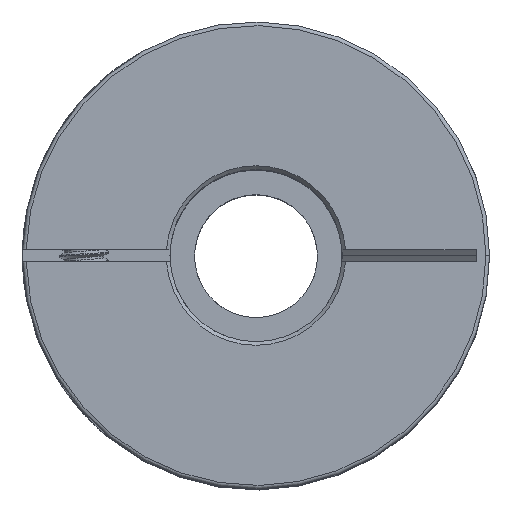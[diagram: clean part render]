
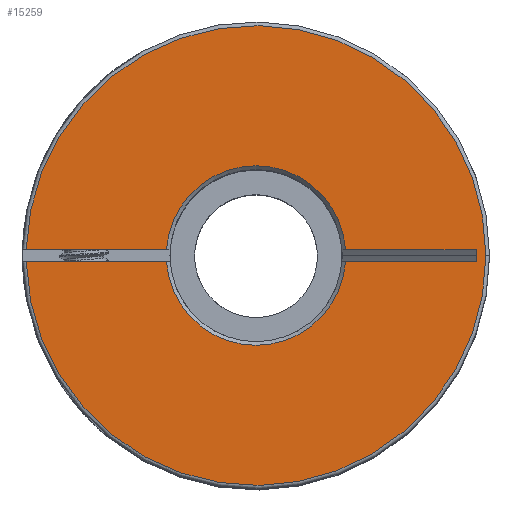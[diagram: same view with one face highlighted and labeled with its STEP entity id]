
A CAD part, top view. The second image highlights one B-rep face of the part: STEP entity #15259.
In plain terms, the highlighted planar face has unit normal (0, 0, 1).
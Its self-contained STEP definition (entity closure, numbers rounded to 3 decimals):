
#201 = EDGE_CURVE ( 'NONE', #16162, #5279, #2422, .T. ) ;
#934 = DIRECTION ( 'NONE',  ( -1., 0., 0. ) ) ;
#1072 = ORIENTED_EDGE ( 'NONE', *, *, #6749, .F. ) ;
#1318 = CIRCLE ( 'NONE', #6060, 18.7 ) ;
#1383 = DIRECTION ( 'NONE',  ( 0., 0., -1. ) ) ;
#1540 = DIRECTION ( 'NONE',  ( 1., 0., 0. ) ) ;
#1614 = EDGE_CURVE ( 'NONE', #9272, #11987, #1318, .T. ) ;
#1629 = ORIENTED_EDGE ( 'NONE', *, *, #5577, .T. ) ;
#1694 = CARTESIAN_POINT ( 'NONE',  ( 7.283, -0.491, 41. ) ) ;
#1795 = DIRECTION ( 'NONE',  ( 1., 0., 0. ) ) ;
#1889 = VERTEX_POINT ( 'NONE', #1694 ) ;
#2098 = EDGE_CURVE ( 'NONE', #10970, #11614, #16054, .T. ) ;
#2422 = LINE ( 'NONE', #14695, #7670 ) ;
#2487 = CARTESIAN_POINT ( 'NONE',  ( 0., 0., 41. ) ) ;
#2634 = AXIS2_PLACEMENT_3D ( 'NONE', #9787, #15946, #6984 ) ;
#2715 = DIRECTION ( 'NONE',  ( 1., 0., 0. ) ) ;
#2769 = AXIS2_PLACEMENT_3D ( 'NONE', #7825, #1383, #1540 ) ;
#2865 = AXIS2_PLACEMENT_3D ( 'NONE', #2487, #15086, #12616 ) ;
#4354 = CARTESIAN_POINT ( 'NONE',  ( 17.907, 0.491, 41. ) ) ;
#4431 = DIRECTION ( 'NONE',  ( 1., 0., 0. ) ) ;
#4529 = DIRECTION ( 'NONE',  ( 0., 0., -1. ) ) ;
#4536 = CARTESIAN_POINT ( 'NONE',  ( -18.694, -0.491, 41. ) ) ;
#4559 = CARTESIAN_POINT ( 'NONE',  ( 18.7, 0., 41. ) ) ;
#4755 = ORIENTED_EDGE ( 'NONE', *, *, #9440, .T. ) ;
#5251 = EDGE_CURVE ( 'NONE', #1889, #13524, #13847, .T. ) ;
#5273 = EDGE_CURVE ( 'NONE', #9272, #15874, #15239, .T. ) ;
#5279 = VERTEX_POINT ( 'NONE', #7918 ) ;
#5577 = EDGE_CURVE ( 'NONE', #11614, #13524, #8697, .T. ) ;
#5743 = FACE_OUTER_BOUND ( 'NONE', #7786, .T. ) ;
#5784 = AXIS2_PLACEMENT_3D ( 'NONE', #15813, #4529, #7243 ) ;
#6060 = AXIS2_PLACEMENT_3D ( 'NONE', #11277, #8887, #7564 ) ;
#6284 = AXIS2_PLACEMENT_3D ( 'NONE', #9142, #14410, #1795 ) ;
#6642 = DIRECTION ( 'NONE',  ( -1., 0., 0. ) ) ;
#6749 = EDGE_CURVE ( 'NONE', #10970, #11369, #7651, .T. ) ;
#6905 = CARTESIAN_POINT ( 'NONE',  ( 17.907, -0.491, 41. ) ) ;
#6984 = DIRECTION ( 'NONE',  ( 1., 0., 0. ) ) ;
#7228 = CARTESIAN_POINT ( 'NONE',  ( 0., 0., 41. ) ) ;
#7243 = DIRECTION ( 'NONE',  ( 1., 0., 0. ) ) ;
#7438 = ORIENTED_EDGE ( 'NONE', *, *, #10901, .T. ) ;
#7564 = DIRECTION ( 'NONE',  ( 1., 0., 0. ) ) ;
#7651 = LINE ( 'NONE', #12675, #8449 ) ;
#7670 = VECTOR ( 'NONE', #934, 1000. ) ;
#7786 = EDGE_LOOP ( 'NONE', ( #14579, #15892, #7438, #13936, #9942, #1072, #8660, #1629, #12542, #4755 ) ) ;
#7825 = CARTESIAN_POINT ( 'NONE',  ( 0., 0., 41. ) ) ;
#7904 = VECTOR ( 'NONE', #2715, 1000. ) ;
#7918 = CARTESIAN_POINT ( 'NONE',  ( -18.694, 0.491, 41. ) ) ;
#8449 = VECTOR ( 'NONE', #6642, 1000. ) ;
#8660 = ORIENTED_EDGE ( 'NONE', *, *, #2098, .T. ) ;
#8697 = CIRCLE ( 'NONE', #5784, 17.913 ) ;
#8887 = DIRECTION ( 'NONE',  ( 0., 0., 1. ) ) ;
#8905 = CARTESIAN_POINT ( 'NONE',  ( -20., -0.491, 41. ) ) ;
#9142 = CARTESIAN_POINT ( 'NONE',  ( 0., 0., 41. ) ) ;
#9272 = VERTEX_POINT ( 'NONE', #4536 ) ;
#9440 = EDGE_CURVE ( 'NONE', #1889, #15874, #12776, .T. ) ;
#9492 = VECTOR ( 'NONE', #13923, 1000. ) ;
#9787 = CARTESIAN_POINT ( 'NONE',  ( 0., 0., 41. ) ) ;
#9935 = AXIS2_PLACEMENT_3D ( 'NONE', #7228, #13416, #4431 ) ;
#9942 = ORIENTED_EDGE ( 'NONE', *, *, #14133, .T. ) ;
#10768 = CARTESIAN_POINT ( 'NONE',  ( 17.913, 0., 41. ) ) ;
#10901 = EDGE_CURVE ( 'NONE', #11987, #5279, #11044, .T. ) ;
#10970 = VERTEX_POINT ( 'NONE', #4354 ) ;
#11044 = CIRCLE ( 'NONE', #6284, 18.7 ) ;
#11277 = CARTESIAN_POINT ( 'NONE',  ( 0., 0., 41. ) ) ;
#11369 = VERTEX_POINT ( 'NONE', #12669 ) ;
#11614 = VERTEX_POINT ( 'NONE', #10768 ) ;
#11648 = CARTESIAN_POINT ( 'NONE',  ( -7.283, 0.491, 41. ) ) ;
#11987 = VERTEX_POINT ( 'NONE', #4559 ) ;
#12542 = ORIENTED_EDGE ( 'NONE', *, *, #5251, .F. ) ;
#12616 = DIRECTION ( 'NONE',  ( 1., 0., 0. ) ) ;
#12669 = CARTESIAN_POINT ( 'NONE',  ( 7.283, 0.491, 41. ) ) ;
#12675 = CARTESIAN_POINT ( 'NONE',  ( -20., 0.491, 41. ) ) ;
#12776 = CIRCLE ( 'NONE', #2769, 7.3 ) ;
#13405 = CIRCLE ( 'NONE', #2865, 7.3 ) ;
#13416 = DIRECTION ( 'NONE',  ( 0., 0., 1. ) ) ;
#13481 = CARTESIAN_POINT ( 'NONE',  ( -7.283, -0.491, 41. ) ) ;
#13524 = VERTEX_POINT ( 'NONE', #6905 ) ;
#13611 = CARTESIAN_POINT ( 'NONE',  ( -20., -0.491, 41. ) ) ;
#13847 = LINE ( 'NONE', #8905, #9492 ) ;
#13923 = DIRECTION ( 'NONE',  ( 1., 0., 0. ) ) ;
#13936 = ORIENTED_EDGE ( 'NONE', *, *, #201, .F. ) ;
#14133 = EDGE_CURVE ( 'NONE', #16162, #11369, #13405, .T. ) ;
#14410 = DIRECTION ( 'NONE',  ( 0., 0., 1. ) ) ;
#14579 = ORIENTED_EDGE ( 'NONE', *, *, #5273, .F. ) ;
#14695 = CARTESIAN_POINT ( 'NONE',  ( -20., 0.491, 41. ) ) ;
#15086 = DIRECTION ( 'NONE',  ( 0., 0., -1. ) ) ;
#15239 = LINE ( 'NONE', #13611, #7904 ) ;
#15259 = ADVANCED_FACE ( 'NONE', ( #5743 ), #15950, .T. ) ;
#15813 = CARTESIAN_POINT ( 'NONE',  ( 0., 0., 41. ) ) ;
#15874 = VERTEX_POINT ( 'NONE', #13481 ) ;
#15892 = ORIENTED_EDGE ( 'NONE', *, *, #1614, .T. ) ;
#15946 = DIRECTION ( 'NONE',  ( 0., 0., -1. ) ) ;
#15950 = PLANE ( 'NONE',  #9935 ) ;
#16054 = CIRCLE ( 'NONE', #2634, 17.913 ) ;
#16162 = VERTEX_POINT ( 'NONE', #11648 ) ;
